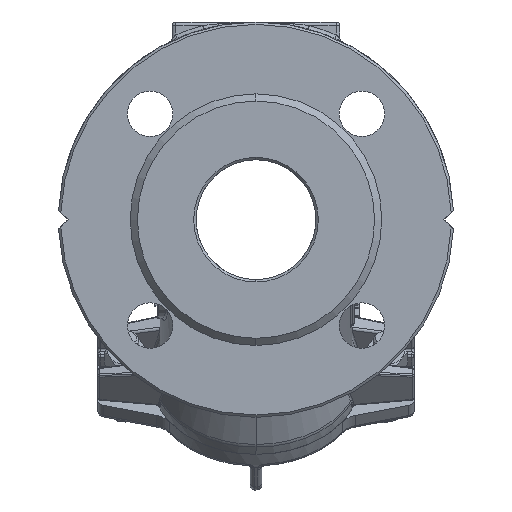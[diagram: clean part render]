
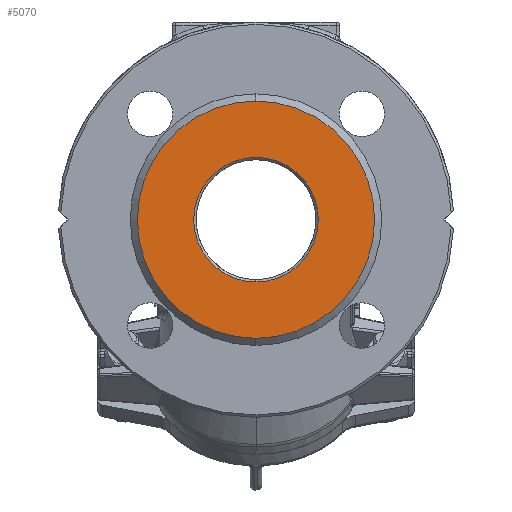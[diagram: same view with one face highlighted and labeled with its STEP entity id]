
A CAD part, left-side view. The second image highlights one B-rep face of the part: STEP entity #5070.
In plain terms, the highlighted planar face has unit normal (-1, 0, 0).
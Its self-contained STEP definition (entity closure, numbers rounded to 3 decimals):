
#569 = CARTESIAN_POINT ( 'NONE',  ( -45., 0., 0. ) ) ;
#1543 = ORIENTED_EDGE ( 'NONE', *, *, #6276, .T. ) ;
#1695 = CARTESIAN_POINT ( 'NONE',  ( -45., 0., 0. ) ) ;
#1754 = VERTEX_POINT ( 'NONE', #37888 ) ;
#1938 = DIRECTION ( 'NONE',  ( 0., 0., 1. ) ) ;
#3983 = DIRECTION ( 'NONE',  ( 0., 0., 1. ) ) ;
#4136 = DIRECTION ( 'NONE',  ( 1., 0., 0. ) ) ;
#5070 = ADVANCED_FACE ( 'NONE', ( #26144, #16365 ), #33559, .T. ) ;
#5923 = CARTESIAN_POINT ( 'NONE',  ( -45., 0., -49.5 ) ) ;
#6276 = EDGE_CURVE ( 'NONE', #35714, #18607, #19110, .T. ) ;
#6307 = EDGE_CURVE ( 'NONE', #32336, #1754, #28416, .T. ) ;
#7116 = CARTESIAN_POINT ( 'NONE',  ( -45., 0., 0. ) ) ;
#7656 = EDGE_LOOP ( 'NONE', ( #21927, #1543 ) ) ;
#7697 = DIRECTION ( 'NONE',  ( -1., 0., 0. ) ) ;
#11416 = AXIS2_PLACEMENT_3D ( 'NONE', #1695, #22652, #37794 ) ;
#11524 = CIRCLE ( 'NONE', #35226, 49.5 ) ;
#12900 = DIRECTION ( 'NONE',  ( -1., 0., 0. ) ) ;
#15769 = CIRCLE ( 'NONE', #15883, 26. ) ;
#15883 = AXIS2_PLACEMENT_3D ( 'NONE', #7116, #4136, #33698 ) ;
#16365 = FACE_OUTER_BOUND ( 'NONE', #25271, .T. ) ;
#18607 = VERTEX_POINT ( 'NONE', #35713 ) ;
#18738 = AXIS2_PLACEMENT_3D ( 'NONE', #34289, #7697, #1938 ) ;
#19110 = CIRCLE ( 'NONE', #11416, 26. ) ;
#20491 = DIRECTION ( 'NONE',  ( -1., 0., 0. ) ) ;
#21927 = ORIENTED_EDGE ( 'NONE', *, *, #22779, .T. ) ;
#22652 = DIRECTION ( 'NONE',  ( 1., 0., 0. ) ) ;
#22779 = EDGE_CURVE ( 'NONE', #18607, #35714, #15769, .T. ) ;
#23664 = AXIS2_PLACEMENT_3D ( 'NONE', #569, #12900, #3983 ) ;
#23846 = DIRECTION ( 'NONE',  ( 0., 0., 1. ) ) ;
#24576 = ORIENTED_EDGE ( 'NONE', *, *, #32388, .T. ) ;
#25271 = EDGE_LOOP ( 'NONE', ( #32524, #24576 ) ) ;
#26144 = FACE_BOUND ( 'NONE', #7656, .T. ) ;
#28416 = CIRCLE ( 'NONE', #18738, 49.5 ) ;
#29642 = CARTESIAN_POINT ( 'NONE',  ( -45., 0., -26. ) ) ;
#32336 = VERTEX_POINT ( 'NONE', #5923 ) ;
#32388 = EDGE_CURVE ( 'NONE', #1754, #32336, #11524, .T. ) ;
#32524 = ORIENTED_EDGE ( 'NONE', *, *, #6307, .T. ) ;
#32620 = CARTESIAN_POINT ( 'NONE',  ( -45., 0., 0. ) ) ;
#33559 = PLANE ( 'NONE',  #23664 ) ;
#33698 = DIRECTION ( 'NONE',  ( 0., 0., 1. ) ) ;
#34289 = CARTESIAN_POINT ( 'NONE',  ( -45., 0., 0. ) ) ;
#35226 = AXIS2_PLACEMENT_3D ( 'NONE', #32620, #20491, #23846 ) ;
#35713 = CARTESIAN_POINT ( 'NONE',  ( -45., 0., 26. ) ) ;
#35714 = VERTEX_POINT ( 'NONE', #29642 ) ;
#37794 = DIRECTION ( 'NONE',  ( 0., 0., 1. ) ) ;
#37888 = CARTESIAN_POINT ( 'NONE',  ( -45., 0., 49.5 ) ) ;
